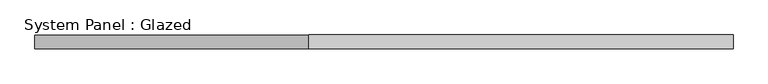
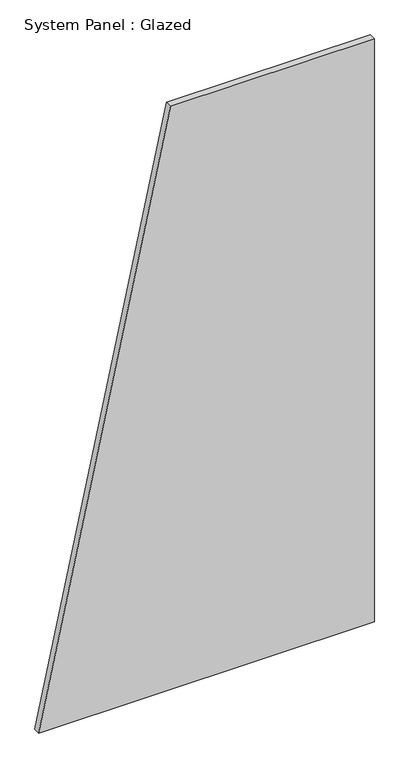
"""IFC4 building model written with IfcOpenShell, lengths in millimetres: plate geometry, System Panel : Glazed."""

from ifc_helpers import new_model, si_unit, frame, origin, place, context, project, spatial, polyline, outline, extrude, source, transform, mapped, element, save


def system_panel_glazed_c13ca40c(model_context):
    return source(origin(), model_context, "Body", "SweptSolid", [
        extrude(outline(polyline([(0.0, -633.2488859), (0.0, 633.2488859), (2325.0, 633.2488859), (2325.0, -136.0688386), (0.0, -633.2488859)])), frame((0.0, -49.5, 0.0), z_axis=(0.0, 1.0, 0.0), x_axis=(0.0, 0.0, 1.0)), (0.0, 0.0, 1.0), 25.0),
    ])


if __name__ == "__main__":
    model = new_model("IFC4")
    model_context = context("Model", 3, world=origin())
    ifc_project = project(units=[si_unit("LENGTHUNIT", "METRE", prefix="MILLI")], contexts=[model_context])
    site = spatial("IfcSite", under=ifc_project)
    building = spatial("IfcBuilding", under=site)
    placement = place(None, origin())
    system_panel_glazed_shape = system_panel_glazed_c13ca40c(model_context)
    element("IfcPlate", 1, ObjectType="System Panel : Glazed", at=placement, inside=building, context=model_context, shape_type="MappedRepresentation", body=[
        mapped(system_panel_glazed_shape, transform((0.0, 0.0, 0.0), x_axis=(1.0, 0.0, 0.0), y_axis=(0.0, 1.0, 0.0), z_axis=(0.0, 0.0, 1.0))),
    ])
    save(model, "model.ifc")
